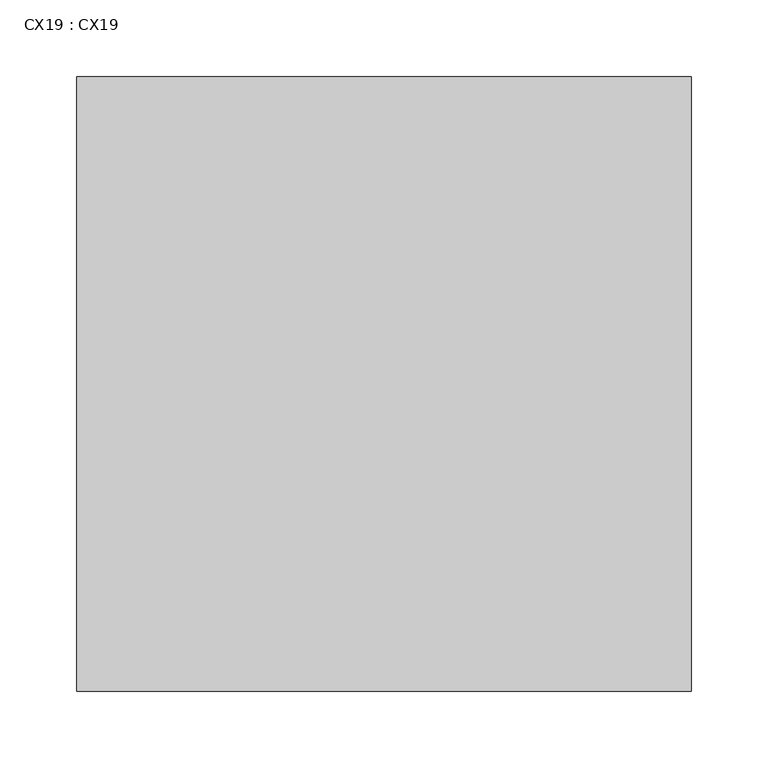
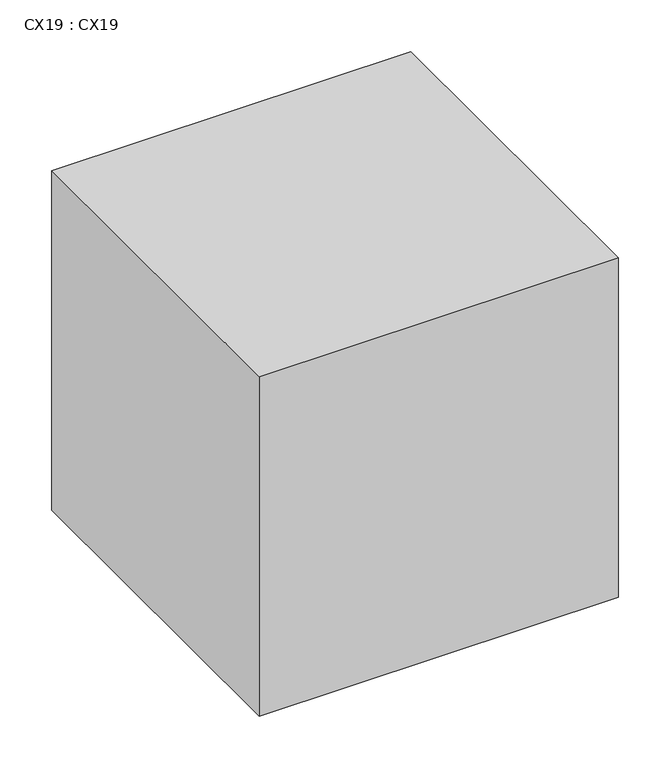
"""IFC4 building model written with IfcOpenShell, lengths in millimetres: proxy geometry, CX19 : CX19."""

from ifc_helpers import new_model, si_unit, frame, origin, place, context, project, spatial, polyline, outline, extrude, source, transform, mapped, element, save


def cx19_cx19_831d6632(model_context):
    return source(origin(), model_context, "Body", "SweptSolid", [
        extrude(outline(polyline([(1020.474, 28331.3), (1020.474, 27931.3), (620.474, 27931.3), (620.474, 28331.3), (1020.474, 28331.3)])), frame((0.0, 0.0, -370.0), z_axis=(0.0, 0.0, 1.0), x_axis=(1.0, 0.0, 0.0)), (0.0, 0.0, 1.0), 400.0),
    ])


if __name__ == "__main__":
    model = new_model("IFC4")
    model_context = context("Model", 3, world=origin())
    ifc_project = project(units=[si_unit("LENGTHUNIT", "METRE", prefix="MILLI")], contexts=[model_context])
    site = spatial("IfcSite", under=ifc_project)
    building = spatial("IfcBuilding", under=site)
    placement = place(None, origin())
    cx19_cx19_shape = cx19_cx19_831d6632(model_context)
    element("IfcBuildingElementProxy", 1, Name="CX19 : CX19", ObjectType="CX19 : CX19", at=placement, inside=building, context=model_context, shape_type="MappedRepresentation", body=[
        mapped(cx19_cx19_shape, transform((0.0, 0.0, 0.0), x_axis=(1.0, 0.0, 0.0), y_axis=(0.0, 1.0, 0.0), z_axis=(0.0, 0.0, 1.0))),
    ])
    save(model, "model.ifc")
